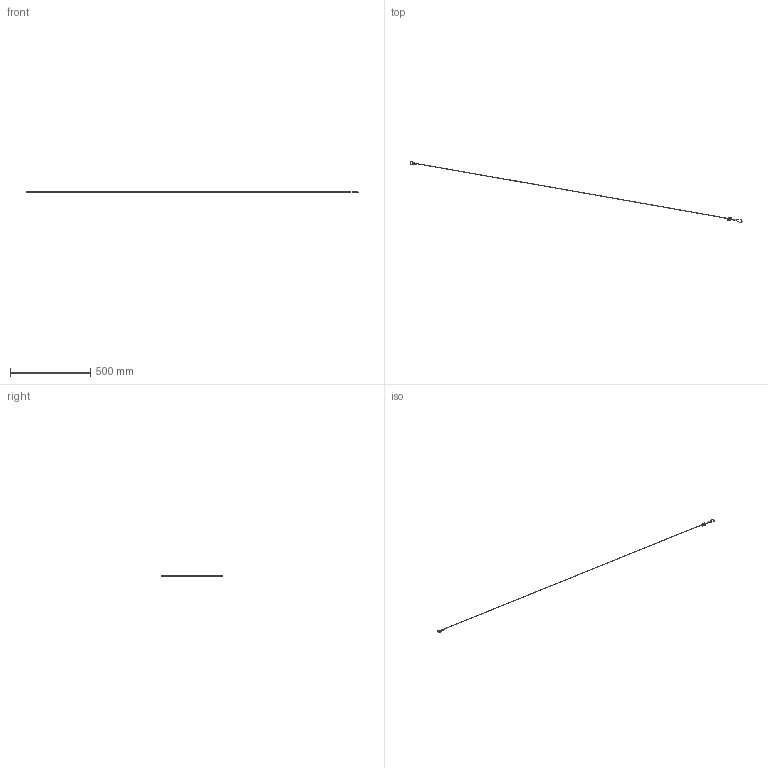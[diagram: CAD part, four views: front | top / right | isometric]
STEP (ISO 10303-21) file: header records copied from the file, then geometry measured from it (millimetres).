
FILE_DESCRIPTION((''),'2;1');
FILE_NAME('057512', '2025-07-28T05:22:11', (''), (''), 'ImageToStl.com STEP Converter','', '');
FILE_SCHEMA(('AUTOMOTIVE_DESIGN_CC2'));
Length unit declared in the file: metre
Products named in the file (1): product0
Bounding box: 2072.88 x 382.15 x 6.47 mm (x, y, z)
Surface area: 13452.9 mm2 (no closed solid volume)
Topology: 0 solids, 29541 shells, 29541 faces, 88623 edges, 14783 vertices
Faces by surface type: plane 29541
Entity records: 679496 total; most frequent: DIRECTION 147707, ORIENTED_EDGE 88623, EDGE_CURVE 88623, LINE 88623, VECTOR 88623, AXIS2_PLACEMENT_3D 29542, FACE_SURFACE 29541, PLANE 29541
